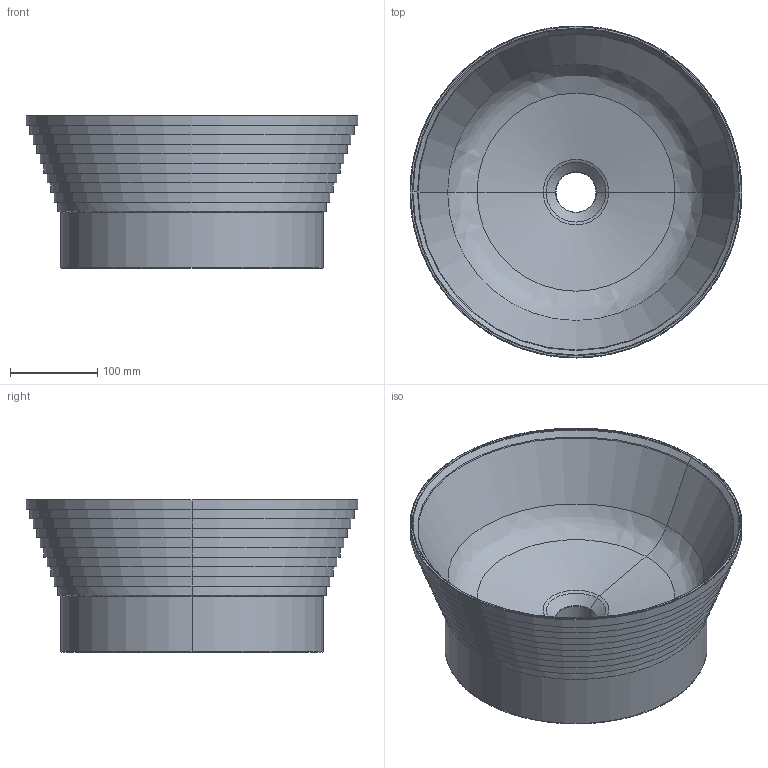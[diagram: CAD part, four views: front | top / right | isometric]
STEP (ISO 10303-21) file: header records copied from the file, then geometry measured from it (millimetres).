
FILE_DESCRIPTION(/* description */ (''),/* implementation_level */ '2;1');
FILE_NAME(/* name */ '00627_Mimika',/* time_stamp */ '2024-10-16T10:37:29+02:00',/* author */ (''),/* organization */ (''),/* preprocessor_version */ 'ST-DEVELOPER v19.2',/* originating_system */ 'Rhino 8.11',/* authorisation */ '');
FILE_SCHEMA (('CONFIG_CONTROL_DESIGN'));
Length unit declared in the file: millimetre
Products named in the file (1): Document
Bounding box: 380 x 380 x 175 mm (x, y, z)
Volume: 4109584.4 mm3; surface area: 656195.7 mm2
Topology: 2 solids, 2 shells, 104 faces, 208 edges, 104 vertices
Faces by surface type: bspline 50, plane 28, cylinder 26
Entity records: 3502 total; most frequent: CARTESIAN_POINT 1500, ORIENTED_EDGE 416, DIRECTION 330, EDGE_CURVE 208, AXIS2_PLACEMENT_3D 192, TRIMMED_CURVE 136, CIRCLE 136, ADVANCED_FACE 104
